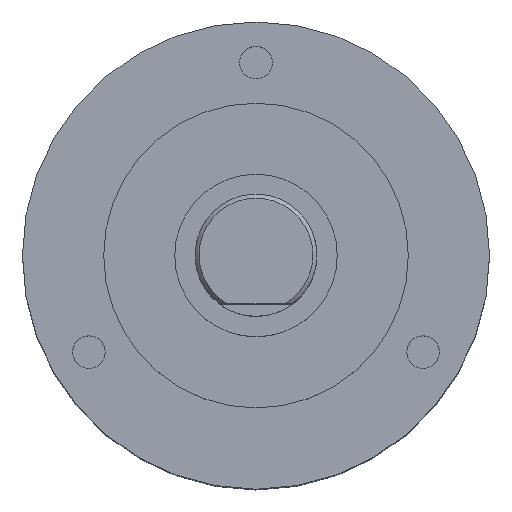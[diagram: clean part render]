
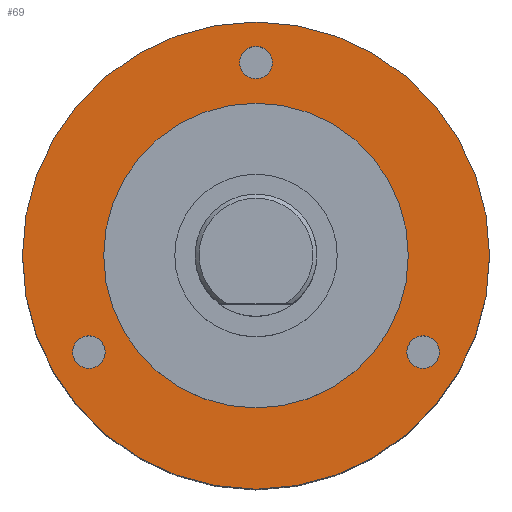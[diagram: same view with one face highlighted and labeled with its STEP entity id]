
A CAD part, top view. The second image highlights one B-rep face of the part: STEP entity #69.
In plain terms, the highlighted planar face has unit normal (0, 0, 1).
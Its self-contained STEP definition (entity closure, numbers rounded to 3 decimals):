
#39=PLANE('',#555);
#69=ADVANCED_FACE('',(#123,#124,#125,#126,#127),#39,.T.);
#123=FACE_BOUND('',#179,.T.);
#124=FACE_BOUND('',#180,.T.);
#125=FACE_BOUND('',#181,.T.);
#126=FACE_BOUND('',#182,.T.);
#127=FACE_BOUND('',#183,.T.);
#179=EDGE_LOOP('',(#243));
#180=EDGE_LOOP('',(#244));
#181=EDGE_LOOP('',(#245));
#182=EDGE_LOOP('',(#246));
#183=EDGE_LOOP('',(#247));
#243=ORIENTED_EDGE('',*,*,#353,.T.);
#244=ORIENTED_EDGE('',*,*,#354,.T.);
#245=ORIENTED_EDGE('',*,*,#355,.T.);
#246=ORIENTED_EDGE('',*,*,#352,.T.);
#247=ORIENTED_EDGE('',*,*,#348,.F.);
#313=VERTEX_POINT('',#803);
#317=VERTEX_POINT('',#813);
#318=VERTEX_POINT('',#816);
#319=VERTEX_POINT('',#818);
#320=VERTEX_POINT('',#820);
#348=EDGE_CURVE('',#313,#313,#396,.T.);
#352=EDGE_CURVE('',#317,#317,#400,.T.);
#353=EDGE_CURVE('',#318,#318,#401,.T.);
#354=EDGE_CURVE('',#319,#319,#402,.T.);
#355=EDGE_CURVE('',#320,#320,#403,.T.);
#396=CIRCLE('',#544,11.5);
#400=CIRCLE('',#550,7.5);
#401=CIRCLE('',#552,0.8);
#402=CIRCLE('',#553,0.8);
#403=CIRCLE('',#554,0.8);
#544=AXIS2_PLACEMENT_3D('',#802,#651,#652);
#550=AXIS2_PLACEMENT_3D('',#812,#663,#664);
#552=AXIS2_PLACEMENT_3D('',#815,#667,#668);
#553=AXIS2_PLACEMENT_3D('',#817,#669,#670);
#554=AXIS2_PLACEMENT_3D('',#819,#671,#672);
#555=AXIS2_PLACEMENT_3D('',#821,#673,#674);
#651=DIRECTION('',(0.,0.,-1.));
#652=DIRECTION('',(-1.,0.,0.));
#663=DIRECTION('',(0.,0.,-1.));
#664=DIRECTION('',(1.,0.,0.));
#667=DIRECTION('',(0.,0.,-1.));
#668=DIRECTION('',(0.5,0.866,0.));
#669=DIRECTION('',(0.,0.,-1.));
#670=DIRECTION('',(0.5,-0.866,0.));
#671=DIRECTION('',(0.,0.,-1.));
#672=DIRECTION('',(-1.,0.,0.));
#673=DIRECTION('',(0.,0.,1.));
#674=DIRECTION('',(1.,0.,0.));
#802=CARTESIAN_POINT('',(0.,0.,0.));
#803=CARTESIAN_POINT('',(-11.5,0.,0.));
#812=CARTESIAN_POINT('',(0.,0.,0.));
#813=CARTESIAN_POINT('',(7.5,0.,0.));
#815=CARTESIAN_POINT('',(8.227,-4.75,0.));
#816=CARTESIAN_POINT('',(8.627,-4.057,0.));
#817=CARTESIAN_POINT('',(-8.227,-4.75,0.));
#818=CARTESIAN_POINT('',(-7.827,-5.443,0.));
#819=CARTESIAN_POINT('',(0.,9.5,0.));
#820=CARTESIAN_POINT('',(-0.8,9.5,0.));
#821=CARTESIAN_POINT('',(0.,0.,0.));
